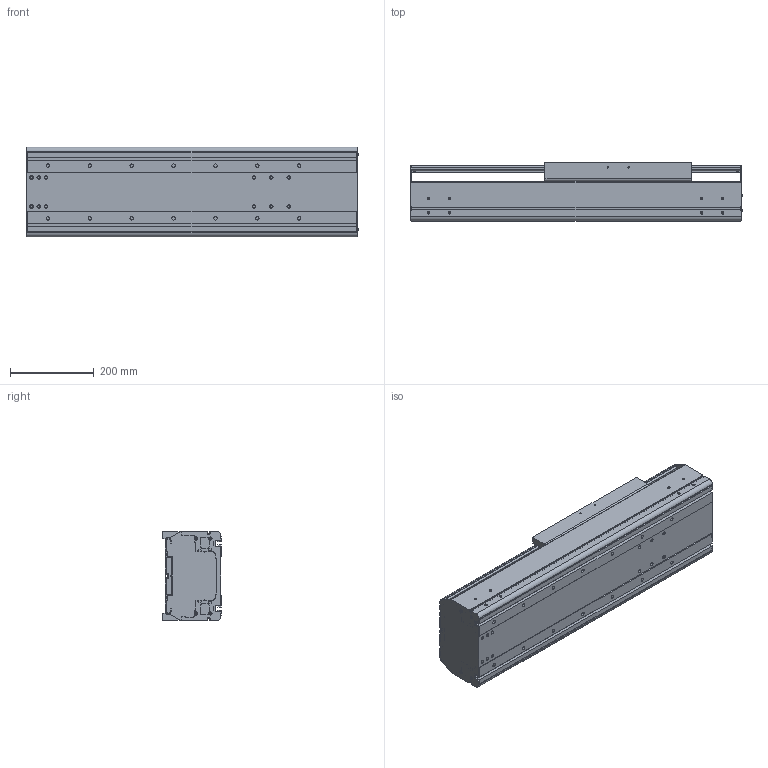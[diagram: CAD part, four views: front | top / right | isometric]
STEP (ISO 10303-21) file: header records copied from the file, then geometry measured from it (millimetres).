
FILE_DESCRIPTION((''),'2;1');
FILE_NAME('BE60J-ST-L_N-25_IGS_PRT','2017-06-18T',(' '),(''),'PRO/ENGINEER BY PARAMETRIC TECHNOLOGY CORPORATION, 2015030','PRO/ENGINEER BY PARAMETRIC TECHNOLOGY CORPORATION, 2015030','');
FILE_SCHEMA(('CONFIG_CONTROL_DESIGN'));
Length unit declared in the file: millimetre
Products named in the file (1): BE60J-ST-L_N-25_IGS_PRT
Bounding box: 792.4 x 140 x 214 mm (x, y, z)
Volume: 6952023.1 mm3; surface area: 1870038 mm2
Topology: 2 solids, 120 shells, 1351 faces, 3682 edges, 2449 vertices
Faces by surface type: cylinder 652, plane 567, cone 84, sphere 24, torus 24
Entity records: 44255 total; most frequent: CARTESIAN_POINT 9544, DIRECTION 7358, ORIENTED_EDGE 6832, EDGE_CURVE 3624, AXIS2_PLACEMENT_3D 2724, VERTEX_POINT 2448, VECTOR 1910, LINE 1910
